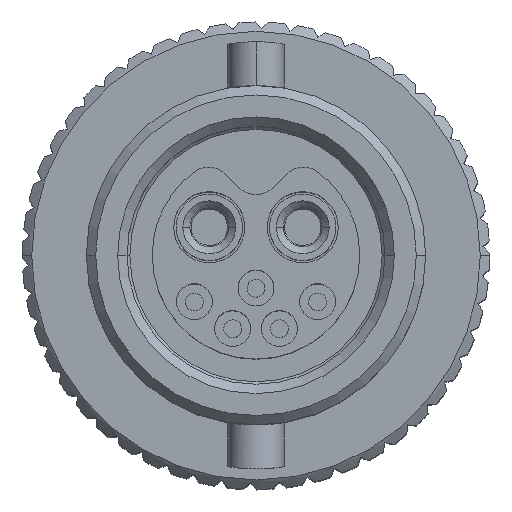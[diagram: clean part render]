
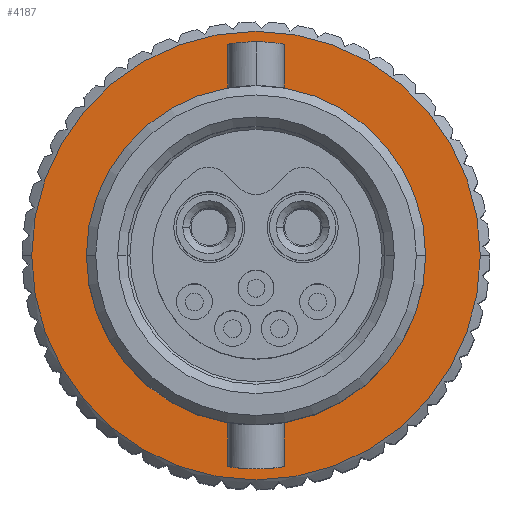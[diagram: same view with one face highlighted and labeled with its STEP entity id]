
A CAD part, top view. The second image highlights one B-rep face of the part: STEP entity #4187.
In plain terms, the highlighted planar face has unit normal (0, 0, 1).
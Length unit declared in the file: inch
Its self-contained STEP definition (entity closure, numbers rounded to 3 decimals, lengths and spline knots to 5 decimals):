
#129 = FACE_OUTER_BOUND ( 'NONE', #11043, .T. ) ;
#389 = AXIS2_PLACEMENT_3D ( 'NONE', #4094, #5293, #13451 ) ;
#720 = DIRECTION ( 'NONE',  ( 1., 0., 0. ) ) ;
#1160 = EDGE_CURVE ( 'NONE', #10502, #10177, #10722, .T. ) ;
#1489 = DIRECTION ( 'NONE',  ( 1., 0., 0. ) ) ;
#1588 = DIRECTION ( 'NONE',  ( 1., 0., 0. ) ) ;
#1836 = CIRCLE ( 'NONE', #10728, 0.24 ) ;
#1912 = ORIENTED_EDGE ( 'NONE', *, *, #10734, .F. ) ;
#2515 = VERTEX_POINT ( 'NONE', #12515 ) ;
#2526 = CIRCLE ( 'NONE', #389, 0.1815 ) ;
#2841 = CIRCLE ( 'NONE', #10670, 0.1815 ) ;
#3435 = CARTESIAN_POINT ( 'NONE',  ( 0.1815, 0., 0.093 ) ) ;
#3998 = CARTESIAN_POINT ( 'NONE',  ( 0.24, 0., 0.093 ) ) ;
#4094 = CARTESIAN_POINT ( 'NONE',  ( 0., 0., 0.093 ) ) ;
#4187 = ADVANCED_FACE ( 'NONE', ( #129, #10826 ), #8833, .T. ) ;
#4493 = AXIS2_PLACEMENT_3D ( 'NONE', #9957, #5860, #1588 ) ;
#4875 = AXIS2_PLACEMENT_3D ( 'NONE', #12892, #5351, #1489 ) ;
#5242 = ORIENTED_EDGE ( 'NONE', *, *, #12849, .T. ) ;
#5292 = CARTESIAN_POINT ( 'NONE',  ( 0., 0., 0.093 ) ) ;
#5293 = DIRECTION ( 'NONE',  ( 0., 0., 1. ) ) ;
#5351 = DIRECTION ( 'NONE',  ( 0., 0., 1. ) ) ;
#5388 = DIRECTION ( 'NONE',  ( 0., 0., 1. ) ) ;
#5860 = DIRECTION ( 'NONE',  ( 0., 0., 1. ) ) ;
#5893 = CARTESIAN_POINT ( 'NONE',  ( 0., 0., 0.093 ) ) ;
#6360 = EDGE_CURVE ( 'NONE', #12649, #2515, #2526, .T. ) ;
#8146 = EDGE_LOOP ( 'NONE', ( #11757, #1912 ) ) ;
#8833 = PLANE ( 'NONE',  #4493 ) ;
#9370 = CARTESIAN_POINT ( 'NONE',  ( -0.24, 0., 0.093 ) ) ;
#9957 = CARTESIAN_POINT ( 'NONE',  ( 0., 0., 0.093 ) ) ;
#10177 = VERTEX_POINT ( 'NONE', #3998 ) ;
#10275 = ORIENTED_EDGE ( 'NONE', *, *, #1160, .T. ) ;
#10502 = VERTEX_POINT ( 'NONE', #9370 ) ;
#10670 = AXIS2_PLACEMENT_3D ( 'NONE', #5292, #5388, #12545 ) ;
#10722 = CIRCLE ( 'NONE', #4875, 0.24 ) ;
#10728 = AXIS2_PLACEMENT_3D ( 'NONE', #5893, #12179, #720 ) ;
#10734 = EDGE_CURVE ( 'NONE', #2515, #12649, #2841, .T. ) ;
#10826 = FACE_BOUND ( 'NONE', #8146, .T. ) ;
#11043 = EDGE_LOOP ( 'NONE', ( #10275, #5242 ) ) ;
#11757 = ORIENTED_EDGE ( 'NONE', *, *, #6360, .F. ) ;
#12179 = DIRECTION ( 'NONE',  ( 0., 0., 1. ) ) ;
#12515 = CARTESIAN_POINT ( 'NONE',  ( -0.1815, 0., 0.093 ) ) ;
#12545 = DIRECTION ( 'NONE',  ( 1., 0., 0. ) ) ;
#12649 = VERTEX_POINT ( 'NONE', #3435 ) ;
#12849 = EDGE_CURVE ( 'NONE', #10177, #10502, #1836, .T. ) ;
#12892 = CARTESIAN_POINT ( 'NONE',  ( 0., 0., 0.093 ) ) ;
#13451 = DIRECTION ( 'NONE',  ( 1., 0., 0. ) ) ;
